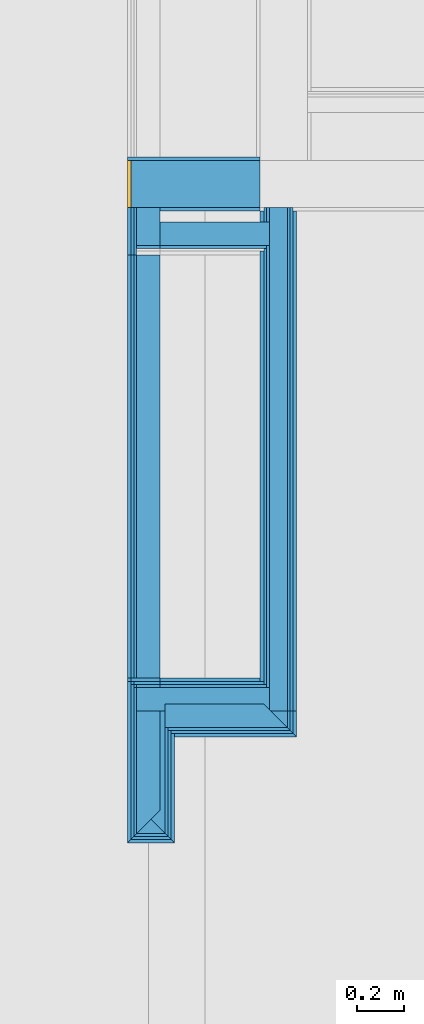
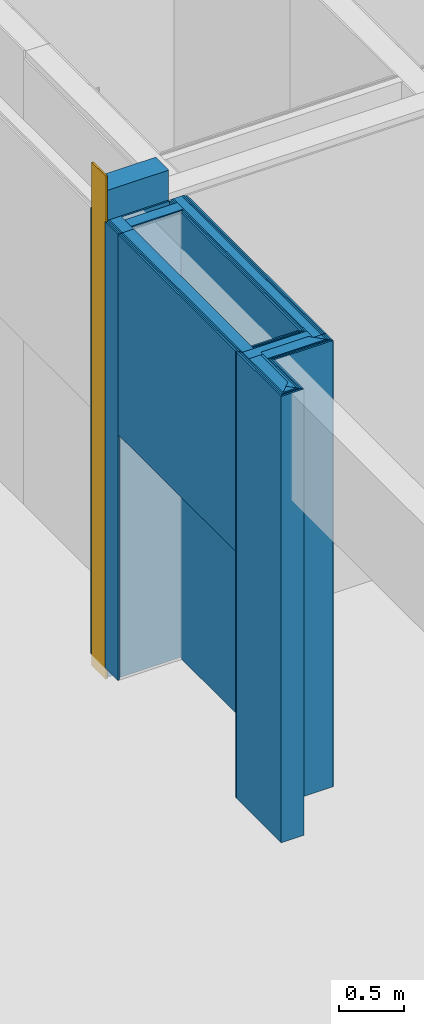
# One storey, part 171 of 260: 44 building element parts, 1 covering, 1 opening, 11 elements without a shape of their own.
"""IFC2X3 building model written with IfcOpenShell, lengths in millimetres."""

from ifc_helpers import new_model, entity, si_unit, converted_unit, derived_unit, money_unit, direction, frame, origin_with_axes, place, context, subcontext, project, spatial, faceted_brep, material, type_object, element, fill, aggregate, save


model = new_model("IFC2X3")

# Units and contexts
model_context = context("Model", 3, precision=0.01, world=origin_with_axes(), true_north=direction((0.0, 1.0)))
body_context = subcontext(model_context, "Body", "Model", "MODEL_VIEW")
ifc_project = project(units=[si_unit("LENGTHUNIT", "METRE", prefix="MILLI"), si_unit("AREAUNIT", "SQUARE_METRE"), si_unit("VOLUMEUNIT", "CUBIC_METRE"), converted_unit("PLANEANGLEUNIT", "DEGREE", entity("IfcPlaneAngleMeasure", 0.0174532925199), si_unit("PLANEANGLEUNIT", "RADIAN"), dimensions=[0, 0, 0, 0, 0, 0, 0]), money_unit("EUR"), converted_unit("TIMEUNIT", "Year", entity("IfcTimeMeasure", 31556926.0), si_unit("TIMEUNIT", "SECOND"), dimensions=[0, 0, 1, 0, 0, 0, 0]), si_unit("MASSUNIT", "GRAM", prefix="KILO"), si_unit("THERMODYNAMICTEMPERATUREUNIT", "DEGREE_CELSIUS"), si_unit("LUMINOUSINTENSITYUNIT", "LUMEN"), si_unit("ENERGYUNIT", "JOULE", prefix="MEGA"), derived_unit("THERMALCONDUCTANCEUNIT", [(si_unit("POWERUNIT", "WATT"), 1), (si_unit("LENGTHUNIT", "METRE"), -1), (si_unit("THERMODYNAMICTEMPERATUREUNIT", "KELVIN"), -1)]), derived_unit("SPECIFICHEATCAPACITYUNIT", [(si_unit("ENERGYUNIT", "JOULE"), 1), (si_unit("MASSUNIT", "GRAM", prefix="KILO"), -1), (si_unit("THERMODYNAMICTEMPERATUREUNIT", "KELVIN"), -1)]), derived_unit("MASSDENSITYUNIT", [(si_unit("MASSUNIT", "GRAM", prefix="KILO"), 1), (si_unit("VOLUMEUNIT", "CUBIC_METRE"), -1)])], contexts=[model_context])

# Site, building, storey
site_placement = place(None, origin_with_axes())
site = spatial("IfcSite", under=ifc_project, at=site_placement, Name="Kolde pst 67a", CompositionType="ELEMENT")
building_placement = place(site_placement, origin_with_axes())
building = spatial("IfcBuilding", under=site, at=building_placement, Name="Riigigümnaasium", CompositionType="ELEMENT")
storey_placement = place(building_placement, origin_with_axes())
storey = spatial("IfcBuildingStorey", under=building, at=storey_placement, Name="1. korrus", CompositionType="ELEMENT", Elevation=0.0)

# Covering
ifc_material_1 = material(Name="_VIIMISTLUSKIHT - viimistlus vastavalt SA osale")
covering_type = type_object("IfcCoveringType", Name="Returned End 25", PredefinedType="NOTDEFINED")
wall_1_placement = place(storey_placement, frame((36604.99923, 45669.9999598, -100.0), z_axis=(0.0, 0.0, 1.0), x_axis=(-1.0, 0.0, 0.0)))
opening_placement = place(wall_1_placement, frame((565.0, 0.0, 0.0), z_axis=(0.0, 0.0, 1.0), x_axis=(1.0, 0.0, 0.0)))
covering_placement = place(opening_placement, frame((-7.5, 0.0, 0.0), z_axis=(0.0, 0.0, 1.0), x_axis=(1.0, 0.0, 0.0)))
covering = element("IfcCovering", 1, at=covering_placement, inside=storey, type_object=covering_type, material=ifc_material_1, Name="Pale", PredefinedType="NOTDEFINED", context=body_context, shape_type="Brep", body=[
    faceted_brep([(7.5, 15.0, 0.0), (-7.5, 15.0, 0.0), (-7.5, 15.0, 4700.0), (7.5, 15.0, 4700.0), (7.5, -200.0, 0.0), (-7.5, -200.0, 0.0), (-7.5, -200.0, 4700.0), (7.5, -200.0, 4700.0)], [[[0, 1, 2, 3]], [[4, 5, 1, 0]], [[5, 6, 2, 1]], [[6, 7, 3, 2]], [[7, 4, 0, 3]], [[4, 7, 6, 5]]]),
])

# Wall, opening
wall_type_1 = type_object("IfcWallType", Name="SS-RB-20/2_+2 plaat 230", PredefinedType="NOTDEFINED")
wall_1 = element("IfcWall", 2, at=wall_1_placement, inside=storey, type_object=wall_type_1, Name="Sisesein")
opening = element("IfcOpeningElement", 3, at=opening_placement, cuts=wall_1, Name="Pale", context=body_context, shape_type="Brep", body=[
    faceted_brep([(-15.0, -200.0, 0.0), (0.0, -200.0, 0.0), (0.0, -200.0, 4700.0), (-15.0, -200.0, 4700.0), (-15.0, 15.0, 0.0), (0.0, 15.0, 0.0), (0.0, 15.0, 4700.0), (-15.0, 15.0, 4700.0)], [[[0, 1, 2, 3]], [[0, 4, 5, 1]], [[1, 5, 6, 2]], [[3, 2, 6, 7]], [[4, 0, 3, 7]], [[5, 4, 7, 6]]]),
])

fill(opening, covering)

# Building element part
building_element_part_1_placement = place(wall_1_placement, origin_with_axes())
building_element_part_1 = element("IfcBuildingElementPart", 4, at=building_element_part_1_placement, material=ifc_material_1, Name="_VIIMISTLUSKIHT - viimistlus vastavalt SA osale", context=body_context, shape_type="Brep", body=[
    faceted_brep([(0.0, 15.0, 100.0), (0.0, 0.0, 100.0), (0.0, 0.0, 4270.0), (0.0, 15.0, 4270.0), (425.0, -4.47037962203e-07, 100.0), (425.0, 15.000002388, 100.0), (425.0, -4.47037962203e-07, 4270.0), (425.0, 15.000002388, 4270.0)], [[[0, 1, 2, 3]], [[4, 1, 0, 5]], [[1, 4, 6, 2]], [[3, 2, 6, 7]], [[5, 0, 3, 7]], [[4, 5, 7, 6]]]),
])

ifc_material_2 = material(Name="_KANDETARIND - monteeritav raudbetoon vastavalt EK osale")
building_element_part_2_placement = place(wall_1_placement, origin_with_axes())
building_element_part_2 = element("IfcBuildingElementPart", 5, at=building_element_part_2_placement, material=ifc_material_2, Name="_KANDETARIND - monteeritav raudbetoon vastavalt EK osale", context=body_context, shape_type="Brep", body=[
    faceted_brep([(550.0, -200.0, 0.0), (550.0, -200.0, 4550.0), (0.0, -200.0, 4550.0), (0.0, -200.0, 0.0), (550.0, -4.35171898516e-07, 4550.0), (550.0, -4.35171898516e-07, 0.0), (0.0, 0.0, 4550.0), (0.0, 0.0, 0.0)], [[[0, 1, 2, 3]], [[4, 1, 0, 5]], [[1, 4, 6, 2]], [[6, 7, 3, 2]], [[5, 0, 3, 7]], [[4, 5, 7, 6]]]),
])

building_element_part_3_placement = place(wall_1_placement, origin_with_axes())
building_element_part_3 = element("IfcBuildingElementPart", 6, at=building_element_part_3_placement, material=ifc_material_1, Name="_VIIMISTLUSKIHT - viimistlus vastavalt SA osale", context=body_context, shape_type="Brep", body=[
    faceted_brep([(0.0, -200.0, 100.0), (0.0, -215.0, 100.0), (0.0, -215.0, 4270.0), (0.0, -200.0, 4270.0), (565.0, -215.0, 100.0), (565.0, -199.999999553, 100.0), (565.0, -215.0, 4270.0), (565.0, -199.999999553, 4270.0)], [[[0, 1, 2, 3]], [[4, 1, 0, 5]], [[1, 4, 6, 2]], [[3, 2, 6, 7]], [[5, 0, 3, 7]], [[4, 5, 7, 6]]]),
])

aggregate(wall_1, [building_element_part_1, building_element_part_2, building_element_part_3])

# Wall, building element parts
wall_type_2 = type_object("IfcWallType", Name="SS-MK-7,5/1_plaaditud 155", PredefinedType="NOTDEFINED")
wall_2_placement = place(storey_placement, frame((36604.99923, 45669.9999598, 0.0), z_axis=(0.0, 0.0, 1.0), x_axis=(0.0, -1.0, 0.0)))
wall_2 = element("IfcWall", 7, at=wall_2_placement, inside=storey, type_object=wall_type_2, Name="Sisesein")
building_element_part_4_placement = place(wall_2_placement, origin_with_axes())
building_element_part_4 = element("IfcBuildingElementPart", 8, at=building_element_part_4_placement, material=ifc_material_1, Name="_VIIMISTLUSKIHT - viimistlus vastavalt SA osale", context=body_context, shape_type="Brep", body=[
    faceted_brep([(15.0000008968, 140.0, 4170.0), (15.0000008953, 155.0, 4170.0), (15.0000008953, 155.0, 0.0), (15.0000008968, 140.0, 0.0), (2139.99997455, 155.0, 4170.0), (2139.99997455, 140.0, 4170.0), (2139.99997455, 155.0, 0.0), (2139.99997455, 140.0, 0.0)], [[[0, 1, 2, 3]], [[4, 1, 0, 5]], [[1, 4, 6, 2]], [[7, 3, 2, 6]], [[5, 0, 3, 7]], [[4, 5, 7, 6]]]),
])
ifc_material_3 = material(Name="_PLAATMATERJAL - kipsplaat veekindel")
building_element_part_5_placement = place(wall_2_placement, origin_with_axes())
building_element_part_5 = element("IfcBuildingElementPart", 9, at=building_element_part_5_placement, material=ifc_material_3, Name="_PLAATMATERJAL - kipsplaat veekindel", context=body_context, shape_type="Brep", body=[
    faceted_brep([(0.0, 127.5, 4170.0), (0.0, 140.0, 4170.0), (0.0, 140.0, 0.0), (0.0, 127.5, 0.0), (2139.99997455, 140.0, 4170.0), (2139.99997455, 127.5, 4170.0), (2139.99997455, 140.0, 0.0), (2139.99997455, 127.5, 0.0)], [[[0, 1, 2, 3]], [[4, 1, 0, 5]], [[1, 4, 6, 2]], [[7, 3, 2, 6]], [[5, 0, 3, 7]], [[4, 5, 7, 6]]]),
])
building_element_part_6_placement = place(wall_2_placement, origin_with_axes())
building_element_part_6 = element("IfcBuildingElementPart", 10, at=building_element_part_6_placement, material=ifc_material_3, Name="_PLAATMATERJAL - kipsplaat veekindel", context=body_context, shape_type="Brep", body=[
    faceted_brep([(0.0, 115.0, 4170.0), (0.0, 127.5, 4170.0), (0.0, 127.5, 0.0), (0.0, 115.0, 0.0), (2139.99997455, 127.5, 4170.0), (2139.99997455, 115.0, 4170.0), (2139.99997455, 127.5, 0.0), (2139.99997455, 115.0, 0.0)], [[[0, 1, 2, 3]], [[4, 1, 0, 5]], [[1, 4, 6, 2]], [[7, 3, 2, 6]], [[5, 0, 3, 7]], [[4, 5, 7, 6]]]),
])
ifc_material_4 = material(Name="_KARKASS - metallkarkass CW 75/50, mineraalvill karkassi vahel")
building_element_part_7_placement = place(wall_2_placement, origin_with_axes())
building_element_part_7 = element("IfcBuildingElementPart", 11, at=building_element_part_7_placement, material=ifc_material_4, Name="_KARKASS - metallkarkass CW 75/50, mineraalvill karkassi vahel", context=body_context, shape_type="Brep", body=[
    faceted_brep([(0.0, 40.0, 4170.0), (0.0, 115.0, 4170.0), (0.0, 115.0, 0.0), (0.0, 40.0, 0.0), (2139.99997455, 115.0, 4170.0), (2139.99997455, 40.0, 4170.0), (2139.99997455, 115.0, 0.0), (2139.99997455, 40.0, 0.0)], [[[0, 1, 2, 3]], [[4, 1, 0, 5]], [[1, 4, 6, 2]], [[7, 3, 2, 6]], [[5, 0, 3, 7]], [[4, 5, 7, 6]]]),
])
building_element_part_8_placement = place(wall_2_placement, origin_with_axes())
building_element_part_8 = element("IfcBuildingElementPart", 12, at=building_element_part_8_placement, material=ifc_material_3, Name="_PLAATMATERJAL - kipsplaat veekindel", context=body_context, shape_type="Brep", body=[
    faceted_brep([(160.0, 27.5, 4170.0), (160.0, 40.0, 4170.0), (160.0, 40.0, 0.0), (160.0, 27.5, 0.0), (2040.0, 40.0, 4170.0), (2040.0, 27.5, 4170.0), (2040.0, 40.0, 0.0), (2040.0, 27.5, 0.0)], [[[0, 1, 2, 3]], [[4, 1, 0, 5]], [[1, 4, 6, 2]], [[7, 3, 2, 6]], [[5, 0, 3, 7]], [[4, 5, 7, 6]]]),
    faceted_brep([(0.0, 27.5, 4170.0), (0.0, 40.0, 4170.0), (0.0, 40.0, 0.0), (0.0, 27.5, 0.0), (60.0, 40.0, 4170.0), (60.0, 27.5, 4170.0), (60.0, 40.0, 0.0), (60.0, 27.5, 0.0)], [[[0, 1, 2, 3]], [[4, 1, 0, 5]], [[1, 4, 6, 2]], [[2, 6, 7, 3]], [[5, 0, 3, 7]], [[4, 5, 7, 6]]]),
])
building_element_part_9_placement = place(wall_2_placement, origin_with_axes())
building_element_part_9 = element("IfcBuildingElementPart", 13, at=building_element_part_9_placement, material=ifc_material_3, Name="_PLAATMATERJAL - kipsplaat veekindel", context=body_context, shape_type="Brep", body=[
    faceted_brep([(172.5, 15.0, 4170.0), (172.5, 27.5, 4170.0), (172.5, 27.5, 0.0), (172.5, 15.0, 0.0), (2027.5, 27.5, 4170.0), (2027.5, 15.0, 4170.0), (2027.5, 27.5, 0.0), (2027.5, 15.0, 0.0)], [[[0, 1, 2, 3]], [[4, 1, 0, 5]], [[1, 4, 6, 2]], [[7, 3, 2, 6]], [[5, 0, 3, 7]], [[4, 5, 7, 6]]]),
    faceted_brep([(0.0, 15.0, 4170.0), (0.0, 27.5, 4170.0), (0.0, 27.5, 0.0), (0.0, 15.0, 0.0), (60.0, 27.5, 4170.0), (60.0, 15.0, 4170.0), (60.0, 27.5, 0.0), (60.0, 15.0, 0.0)], [[[0, 1, 2, 3]], [[4, 1, 0, 5]], [[1, 4, 6, 2]], [[2, 6, 7, 3]], [[5, 0, 3, 7]], [[4, 5, 7, 6]]]),
])
building_element_part_10_placement = place(wall_2_placement, origin_with_axes())
building_element_part_10 = element("IfcBuildingElementPart", 14, at=building_element_part_10_placement, material=ifc_material_1, Name="_VIIMISTLUSKIHT - viimistlus vastavalt SA osale", context=body_context, shape_type="Brep", body=[
    faceted_brep([(185.0, 1.72093450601e-08, 4170.0), (185.0, 15.0, 4170.0), (185.0, 15.0, 0.0), (185.0, 3.28321192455e-06, 0.0), (2015.0, 15.0, 4170.0), (2015.0, 1.10134124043e-09, 4170.0), (2015.0, 15.0, 0.0), (2015.0, 2.09922745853e-07, 0.0)], [[[0, 1, 2, 3]], [[4, 1, 0, 5]], [[1, 4, 6, 2]], [[7, 3, 2, 6]], [[5, 0, 3, 7]], [[4, 5, 7, 6]]]),
    faceted_brep([(15.0000009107, 3.56870799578e-06, 4170.0), (15.0000009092, 15.0, 4170.0), (15.0000009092, 15.0, 0.0), (15.0000009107, 3.56870799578e-06, 0.0), (60.0, 15.0, 4170.0), (60.0, 1.83106863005e-08, 4170.0), (60.0, 15.0, 0.0), (60.0, 3.49313467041e-06, 0.0)], [[[0, 1, 2, 3]], [[4, 1, 0, 5]], [[1, 4, 6, 2]], [[2, 6, 7, 3]], [[5, 0, 3, 7]], [[4, 5, 7, 6]]]),
])
aggregate(wall_2, [building_element_part_4, building_element_part_5, building_element_part_6, building_element_part_7, building_element_part_8, building_element_part_9, building_element_part_10])

wall_type_3 = type_object("IfcWallType", Name="SS-MK-10/2_šahti sein+plaat 140", PredefinedType="NOTDEFINED")
wall_3_placement = place(storey_placement, frame((36604.99923, 43669.9999598, 0.0), z_axis=(0.0, 0.0, 1.0), x_axis=(-1.0, 0.0, 0.0)))
wall_3 = element("IfcWall", 15, at=wall_3_placement, inside=storey, type_object=wall_type_3, Name="Sisesein")
ifc_material_5 = material(Name="_KARKASS - metallkarkass CW 100/50/06 ja UW 100/40/06, samm 600, vahel mineraalvill, helineeldetegur αw = 1.0,  ISOVER ACOUSTIC 100mm või samaväärne")
building_element_part_11_placement = place(wall_3_placement, origin_with_axes())
building_element_part_11 = element("IfcBuildingElementPart", 16, at=building_element_part_11_placement, material=ifc_material_5, Name="_KARKASS - metallkarkass CW 100/50/06 ja UW 100/40/06, samm 600, vahel mineraalvill, helineeldetegur αw = 1.0,  ISOVER ACOUSTIC 100mm või samaväärne", context=body_context, shape_type="Brep", body=[
    faceted_brep([(524.999998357, 40.0, 4170.0), (-40.0, 40.0, 4170.0), (-40.0, 40.0, 0.0), (524.999998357, 40.0, 0.0), (-40.0, 140.0, 4170.0), (524.999994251, 140.0, 4170.0), (-40.0, 140.0, 0.0), (524.999994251, 140.0, 0.0)], [[[0, 1, 2, 3]], [[4, 1, 0, 5]], [[1, 4, 6, 2]], [[6, 7, 3, 2]], [[5, 0, 3, 7]], [[4, 5, 7, 6]]]),
])
building_element_part_12_placement = place(wall_3_placement, origin_with_axes())
building_element_part_12 = element("IfcBuildingElementPart", 17, at=building_element_part_12_placement, material=ifc_material_3, Name="_PLAATMATERJAL - kipsplaat veekindel", context=body_context, shape_type="Brep", body=[
    faceted_brep([(425.0, 27.5, 4170.0), (-27.5, 27.5, 4170.0), (-27.5, 27.5, 0.0), (537.5, 27.5, 0.0), (537.5, 27.5, 4170.0), (524.999998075, 27.5, 4170.0), (524.999973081, 27.5, 2300.0), (425.0, 27.5, 2300.0), (-27.5, 40.0, 4170.0), (425.0, 40.0, 4170.0), (-27.5, 40.0, 0.0), (537.5, 40.0, 0.0), (537.5, 40.0, 4170.0), (524.999998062, 40.0, 4170.0), (524.999972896, 40.0, 2300.0), (425.0, 40.0, 2300.0)], [[[0, 1, 2, 3, 4, 5, 6, 7]], [[8, 1, 0, 9]], [[1, 8, 10, 2]], [[10, 11, 3, 2]], [[12, 4, 3, 11]], [[13, 5, 4, 12]], [[5, 13, 14, 6]], [[15, 7, 6, 14]], [[9, 0, 7, 15]], [[8, 9, 15, 14, 13, 12, 11, 10]]]),
])
building_element_part_13_placement = place(wall_3_placement, origin_with_axes())
building_element_part_13 = element("IfcBuildingElementPart", 18, at=building_element_part_13_placement, material=ifc_material_3, Name="_PLAATMATERJAL - kipsplaat veekindel", context=body_context, shape_type="Brep", body=[
    faceted_brep([(425.0, 15.0, 4170.0), (-15.0, 15.0, 4170.0), (-15.0, 15.0, 0.0), (549.9999996, 15.0, 0.0), (549.9999996, 15.0, 4170.0), (537.5, 15.0, 4170.0), (537.5, 15.0, 2300.0), (425.0, 15.0, 2300.0), (-15.0, 27.5, 4170.0), (425.0, 27.5, 4170.0), (-15.0, 27.5, 0.0), (549.999999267, 27.5, 0.0), (549.999999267, 27.5, 4170.0), (537.5, 27.5, 4170.0), (537.5, 27.5, 2300.0), (425.0, 27.5, 2300.0), (525.0, 27.5, 2300.0)], [[[0, 1, 2, 3, 4, 5, 6, 7]], [[8, 1, 0, 9]], [[1, 8, 10, 2]], [[10, 11, 3, 2]], [[12, 4, 3, 11]], [[13, 5, 4, 12]], [[5, 13, 14, 6]], [[15, 7, 6, 14, 16]], [[9, 0, 7, 15]], [[8, 9, 15, 16, 14, 13, 12, 11, 10]]]),
])
building_element_part_14_placement = place(wall_3_placement, origin_with_axes())
building_element_part_14 = element("IfcBuildingElementPart", 19, at=building_element_part_14_placement, material=ifc_material_1, Name="_VIIMISTLUSKIHT - viimistlus vastavalt SA osale", context=body_context, shape_type="Brep", body=[
    faceted_brep([(425.0, 0.0, 4170.0), (0.0, 0.0, 4170.0), (0.0, 0.0, 0.0), (564.999983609, 0.0, 0.0), (564.999993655, 0.0, 4170.0), (549.999999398, 0.0, 4170.0), (549.999981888, 0.0, 2300.0), (425.0, 0.0, 2300.0), (0.0, 15.0, 4170.0), (425.0, 15.0, 4170.0), (0.0, 15.0, 0.0), (564.999983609, 15.0, 0.0), (564.999993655, 15.0, 4170.0), (549.999999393, 15.0, 4170.0), (549.999981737, 15.0, 2300.0), (425.0, 15.0, 2300.0), (537.5, 15.0, 2300.0)], [[[0, 1, 2, 3, 4, 5, 6, 7]], [[8, 1, 0, 9]], [[1, 8, 10, 2]], [[2, 10, 11, 3]], [[12, 4, 3, 11]], [[13, 5, 4, 12]], [[5, 13, 14, 6]], [[15, 7, 6, 14, 16]], [[9, 0, 7, 15]], [[8, 9, 15, 16, 14, 13, 12, 11, 10]]]),
])
aggregate(wall_3, [building_element_part_11, building_element_part_12, building_element_part_13, building_element_part_14])

wall_4_placement = place(storey_placement, frame((36039.99923, 42969.9999598, 0.0), z_axis=(0.0, 0.0, 1.0), x_axis=(0.0, 1.0, 0.0)))
wall_4 = element("IfcWall", 20, at=wall_4_placement, inside=storey, type_object=wall_type_3, Name="Sisesein")
building_element_part_15_placement = place(wall_4_placement, origin_with_axes())
building_element_part_15 = element("IfcBuildingElementPart", 21, at=building_element_part_15_placement, material=ifc_material_1, Name="_VIIMISTLUSKIHT - viimistlus vastavalt SA osale", context=body_context, shape_type="Brep", body=[
    faceted_brep([(685.0, -6.34450003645e-06, 4170.0), (685.0, -15.0000003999, 4170.0), (685.0, -15.0000003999, 0.0), (685.0, -1.6391290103e-05, 0.0), (15.0000182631, -15.0000182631, 4170.0), (0.0, -2.54518539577e-05, 4170.0), (15.0000182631, -15.0000182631, 0.0), (0.0, -2.54518539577e-05, 0.0)], [[[0, 1, 2, 3]], [[4, 1, 0, 5]], [[1, 4, 6, 2]], [[7, 3, 2, 6]], [[5, 0, 3, 7]], [[4, 5, 7, 6]]]),
])
building_element_part_16_placement = place(wall_4_placement, origin_with_axes())
building_element_part_16 = element("IfcBuildingElementPart", 22, at=building_element_part_16_placement, material=ifc_material_3, Name="_PLAATMATERJAL - kipsplaat veekindel", context=body_context, shape_type="Brep", body=[
    faceted_brep([(672.5, -15.0000007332, 4170.0), (672.5, -27.5, 4170.0), (672.5, -27.5, 0.0), (672.5, -15.0000007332, 0.0), (27.5, -27.5, 4170.0), (15.0000182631, -15.0000182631, 4170.0), (27.5, -27.5, 0.0), (15.0000182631, -15.0000182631, 0.0)], [[[0, 1, 2, 3]], [[4, 1, 0, 5]], [[1, 4, 6, 2]], [[7, 3, 2, 6]], [[5, 0, 3, 7]], [[4, 5, 7, 6]]]),
])
building_element_part_17_placement = place(wall_4_placement, origin_with_axes())
building_element_part_17 = element("IfcBuildingElementPart", 23, at=building_element_part_17_placement, material=ifc_material_3, Name="_PLAATMATERJAL - kipsplaat veekindel", context=body_context, shape_type="Brep", body=[
    faceted_brep([(660.0, -27.5, 4170.0), (660.0, -40.0000016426, 4170.0), (660.0, -40.0000016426, 0.0), (660.0, -27.5, 0.0), (40.0000271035, -40.0000271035, 4170.0), (27.5, -27.5, 4170.0), (40.0000271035, -40.0000271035, 0.0), (27.5, -27.5, 0.0)], [[[0, 1, 2, 3]], [[4, 1, 0, 5]], [[1, 4, 6, 2]], [[7, 3, 2, 6]], [[5, 0, 3, 7]], [[4, 5, 7, 6]]]),
])
building_element_part_18_placement = place(wall_4_placement, origin_with_axes())
building_element_part_18 = element("IfcBuildingElementPart", 24, at=building_element_part_18_placement, material=ifc_material_5, Name="_KARKASS - metallkarkass CW 100/50/06 ja UW 100/40/06, samm 600, vahel mineraalvill, helineeldetegur αw = 1.0,  ISOVER ACOUSTIC 100mm või samaväärne", context=body_context, shape_type="Brep", body=[
    faceted_brep([(560.0, -40.0000057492, 4170.0), (560.0, -140.0, 4170.0), (560.0, -140.0, 0.0), (560.0, -40.0000057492, 0.0), (140.0, -140.0, 4170.0), (40.0000271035, -40.0000271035, 4170.0), (140.0, -140.0, 0.0), (40.0000271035, -40.0000271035, 0.0)], [[[0, 1, 2, 3]], [[4, 1, 0, 5]], [[1, 4, 6, 2]], [[7, 3, 2, 6]], [[5, 0, 3, 7]], [[4, 5, 7, 6]]]),
])
aggregate(wall_4, [building_element_part_15, building_element_part_16, building_element_part_17, building_element_part_18])

wall_5_placement = place(storey_placement, frame((36039.99923, 45469.9999598, 2300.0), z_axis=(0.0, 0.0, 1.0), x_axis=(0.0, -1.0, 0.0)))
wall_5 = element("IfcWall", 25, at=wall_5_placement, inside=storey, type_object=wall_type_3, Name="Sisesein")
building_element_part_19_placement = place(wall_5_placement, origin_with_axes())
building_element_part_19 = element("IfcBuildingElementPart", 26, at=building_element_part_19_placement, material=ifc_material_5, Name="_KARKASS - metallkarkass CW 100/50/06 ja UW 100/40/06, samm 600, vahel mineraalvill, helineeldetegur αw = 1.0,  ISOVER ACOUSTIC 100mm või samaväärne", context=body_context, shape_type="Brep", body=[
    faceted_brep([(0.0, 40.0, 1870.0), (0.0, 140.0, 1870.0), (0.0, 140.0, 0.0), (0.0, 40.0, 0.0), (1840.0, 140.0, 1870.0), (1840.0, 40.0000019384, 1870.0), (1840.0, 140.0, 0.0), (1840.0, 40.0000271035, 0.0)], [[[0, 1, 2, 3]], [[4, 1, 0, 5]], [[1, 4, 6, 2]], [[2, 6, 7, 3]], [[5, 0, 3, 7]], [[4, 5, 7, 6]]]),
])
building_element_part_20_placement = place(wall_5_placement, origin_with_axes())
building_element_part_20 = element("IfcBuildingElementPart", 27, at=building_element_part_20_placement, material=ifc_material_3, Name="_PLAATMATERJAL - kipsplaat veekindel", context=body_context, shape_type="Brep", body=[
    faceted_brep([(0.0, 27.5, 1870.0), (0.0, 40.0, 1870.0), (0.0, 40.0, 0.0), (0.0, 27.5, 0.0), (1827.5, 40.0, 1870.0), (1827.5, 27.5, 1870.0), (1827.5, 40.0, 0.0), (1827.5, 27.5, 0.0)], [[[0, 1, 2, 3]], [[4, 1, 0, 5]], [[1, 4, 6, 2]], [[2, 6, 7, 3]], [[5, 0, 3, 7]], [[4, 5, 7, 6]]]),
])
building_element_part_21_placement = place(wall_5_placement, origin_with_axes())
building_element_part_21 = element("IfcBuildingElementPart", 28, at=building_element_part_21_placement, material=ifc_material_3, Name="_PLAATMATERJAL - kipsplaat veekindel", context=body_context, shape_type="Brep", body=[
    faceted_brep([(0.0, 15.0, 1870.0), (0.0, 27.5, 1870.0), (0.0, 27.5, 0.0), (0.0, 15.0, 0.0), (1815.0, 27.5, 1870.0), (1815.0, 15.0000006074, 1870.0), (1815.0, 27.5, 0.0), (1815.0, 15.0000182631, 0.0)], [[[0, 1, 2, 3]], [[4, 1, 0, 5]], [[1, 4, 6, 2]], [[2, 6, 7, 3]], [[5, 0, 3, 7]], [[4, 5, 7, 6]]]),
])
building_element_part_22_placement = place(wall_5_placement, origin_with_axes())
building_element_part_22 = element("IfcBuildingElementPart", 29, at=building_element_part_22_placement, material=ifc_material_1, Name="_VIIMISTLUSKIHT - viimistlus vastavalt SA osale", context=body_context, shape_type="Brep", body=[
    faceted_brep([(0.0, 0.0, 1870.0), (0.0, 15.0, 1870.0), (0.0, 15.0, 0.0), (0.0, 0.0, 0.0), (1800.0, 15.0, 1870.0), (1800.0, 6.34450003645e-06, 1870.0), (1800.0, 15.0, 0.0), (1800.0, 1.08498952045e-05, 0.0)], [[[0, 1, 2, 3]], [[4, 1, 0, 5]], [[1, 4, 6, 2]], [[2, 6, 7, 3]], [[5, 0, 3, 7]], [[4, 5, 7, 6]]]),
])
aggregate(wall_5, [building_element_part_19, building_element_part_20, building_element_part_21, building_element_part_22])

wall_6_placement = place(storey_placement, frame((36039.99923, 45469.9999598, 0.0), z_axis=(0.0, 0.0, 1.0), x_axis=(0.0, 1.0, 0.0)))
wall_6 = element("IfcWall", 30, at=wall_6_placement, inside=storey, type_object=wall_type_3, Name="Sisesein")
building_element_part_23_placement = place(wall_6_placement, origin_with_axes())
building_element_part_23 = element("IfcBuildingElementPart", 31, at=building_element_part_23_placement, material=ifc_material_1, Name="_VIIMISTLUSKIHT - viimistlus vastavalt SA osale", context=body_context, shape_type="Brep", body=[
    faceted_brep([(200.0, -3.12928705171e-06, 4170.0), (200.0, -14.999995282, 4170.0), (200.0, -15.0, 0.0), (200.0, 0.0, 0.0), (0.0, -14.999990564, 4170.0), (0.0, -6.29155749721e-06, 4170.0), (0.0, -15.0, 0.0), (0.0, 0.0, 0.0), (0.0, -6.29155749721e-06, 2300.0)], [[[0, 1, 2, 3]], [[4, 1, 0, 5]], [[1, 4, 6, 2]], [[2, 6, 7, 3]], [[5, 0, 3, 7, 8]], [[4, 5, 8, 7, 6]]]),
])
building_element_part_24_placement = place(wall_6_placement, origin_with_axes())
building_element_part_24 = element("IfcBuildingElementPart", 32, at=building_element_part_24_placement, material=ifc_material_3, Name="_PLAATMATERJAL - kipsplaat veekindel", context=body_context, shape_type="Brep", body=[
    faceted_brep([(200.0, -14.999995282, 4170.0), (200.0, -27.5, 4170.0), (200.0, -27.5, 0.0), (200.0, -15.0, 0.0), (0.0, -27.5, 4170.0), (0.0, -14.999990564, 4170.0), (0.0, -27.5, 2300.0), (15.0, -27.5, 2300.0), (15.0, -27.5, 0.0), (15.0, -15.0, 0.0), (15.0, -15.0, 2300.0), (0.0, -14.9999947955, 2300.0)], [[[0, 1, 2, 3]], [[4, 1, 0, 5]], [[1, 4, 6, 7, 8, 2]], [[2, 8, 9, 3]], [[5, 0, 3, 9, 10, 11]], [[4, 5, 11, 6]], [[10, 7, 6, 11]], [[9, 8, 7, 10]]]),
])
building_element_part_25_placement = place(wall_6_placement, origin_with_axes())
building_element_part_25 = element("IfcBuildingElementPart", 33, at=building_element_part_25_placement, material=ifc_material_3, Name="_PLAATMATERJAL - kipsplaat veekindel", context=body_context, shape_type="Brep", body=[
    faceted_brep([(200.0, -27.5, 4170.0), (200.0, -39.9999962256, 4170.0), (200.0, -40.0, 0.0), (200.0, -27.5, 0.0), (0.0, -39.9999924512, 4170.0), (0.0, -27.5, 4170.0), (0.0, -39.9999958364, 2300.0), (27.5, -40.0, 2300.0), (27.5, -40.0, 0.0), (27.5, -27.5, 0.0), (27.5, -27.5, 2300.0), (0.0, -27.5, 2300.0)], [[[0, 1, 2, 3]], [[4, 1, 0, 5]], [[1, 4, 6, 7, 8, 2]], [[2, 8, 9, 3]], [[5, 0, 3, 9, 10, 11]], [[4, 5, 11, 6]], [[11, 10, 7, 6]], [[9, 8, 7, 10]]]),
])
building_element_part_26_placement = place(wall_6_placement, origin_with_axes())
building_element_part_26 = element("IfcBuildingElementPart", 34, at=building_element_part_26_placement, material=ifc_material_5, Name="_KARKASS - metallkarkass CW 100/50/06 ja UW 100/40/06, samm 600, vahel mineraalvill, helineeldetegur αw = 1.0,  ISOVER ACOUSTIC 100mm või samaväärne", context=body_context, shape_type="Brep", body=[
    faceted_brep([(200.0, -39.9999962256, 4170.0), (200.0, -140.0, 4170.0), (200.0, -140.0, 0.0), (200.0, -40.0, 0.0), (0.0, -140.0, 4170.0), (0.0, -39.9999924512, 4170.0), (0.0, -140.0, 2300.0), (40.0, -140.0, 2300.0), (40.0, -140.0, 0.0), (40.0, -40.0, 0.0), (40.0, -40.0, 2300.0), (0.0, -39.9999958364, 2300.0)], [[[0, 1, 2, 3]], [[4, 1, 0, 5]], [[1, 4, 6, 7, 8, 2]], [[2, 8, 9, 3]], [[5, 0, 3, 9, 10, 11]], [[4, 5, 11, 6]], [[11, 10, 7, 6]], [[9, 8, 7, 10]]]),
])
aggregate(wall_6, [building_element_part_23, building_element_part_24, building_element_part_25, building_element_part_26])

wall_7_placement = place(storey_placement, frame((36039.99923, 45469.9999598, 0.0), z_axis=(0.0, 0.0, 1.0), x_axis=(1.0, 0.0, 0.0)))
wall_7 = element("IfcWall", 35, at=wall_7_placement, inside=storey, type_object=wall_type_3, Name="Sisesein")
building_element_part_27_placement = place(wall_7_placement, origin_with_axes())
building_element_part_27 = element("IfcBuildingElementPart", 36, at=building_element_part_27_placement, material=ifc_material_5, Name="_KARKASS - metallkarkass CW 100/50/06 ja UW 100/40/06, samm 600, vahel mineraalvill, helineeldetegur αw = 1.0,  ISOVER ACOUSTIC 100mm või samaväärne", context=body_context, shape_type="Brep", body=[
    faceted_brep([(140.0, 140.0, 4170.0), (605.0, 140.0, 4170.0), (605.0, 140.0, 0.0), (140.0, 140.0, 0.0), (605.0, 40.0, 4170.0), (140.0, 40.0, 4170.0), (605.0, 40.0, 0.0), (140.0, 40.0, 0.0)], [[[0, 1, 2, 3]], [[4, 1, 0, 5]], [[1, 4, 6, 2]], [[6, 7, 3, 2]], [[5, 0, 3, 7]], [[4, 5, 7, 6]]]),
])
building_element_part_28_placement = place(wall_7_placement, origin_with_axes())
building_element_part_28 = element("IfcBuildingElementPart", 37, at=building_element_part_28_placement, material=ifc_material_3, Name="_PLAATMATERJAL - kipsplaat veekindel", context=body_context, shape_type="Brep", body=[
    faceted_brep([(140.0, 40.0, 4170.0), (592.5, 40.0, 4170.0), (592.5, 40.0, 0.0), (40.0, 40.0, 0.0), (39.9999962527, 40.0, 2300.0), (140.0, 40.0, 2300.0), (592.5, 27.5, 4170.0), (140.0, 27.5, 4170.0), (592.5, 27.5, 0.0), (40.0, 27.5, 0.0), (39.9999961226, 27.5, 2300.0), (140.0, 27.5, 2300.0)], [[[0, 1, 2, 3, 4, 5]], [[6, 1, 0, 7]], [[1, 6, 8, 2]], [[8, 9, 3, 2]], [[9, 10, 4, 3]], [[5, 4, 10, 11]], [[7, 0, 5, 11]], [[6, 7, 11, 10, 9, 8]]]),
])
aggregate(wall_7, [building_element_part_27, building_element_part_28])

wall_8_placement = place(storey_placement, frame((36039.99923, 42969.9999598, 0.0), z_axis=(0.0, 0.0, 1.0), x_axis=(1.0, 0.0, 0.0)))
wall_8 = element("IfcWall", 38, at=wall_8_placement, inside=storey, type_object=wall_type_3, Name="Sisesein")
building_element_part_29_placement = place(wall_8_placement, origin_with_axes())
building_element_part_29 = element("IfcBuildingElementPart", 39, at=building_element_part_29_placement, material=ifc_material_5, Name="_KARKASS - metallkarkass CW 100/50/06 ja UW 100/40/06, samm 600, vahel mineraalvill, helineeldetegur αw = 1.0,  ISOVER ACOUSTIC 100mm või samaväärne", context=body_context, shape_type="Brep", body=[
    faceted_brep([(100.0, 100.0, 4170.0), (159.999998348, 40.0000016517, 4170.0), (159.999998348, 40.0000016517, 0.0), (100.0, 100.0, 0.0), (40.0000016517, 40.0000016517, 4170.0), (40.0000016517, 40.0000016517, 0.0)], [[[0, 1, 2, 3]], [[4, 1, 0]], [[1, 4, 5, 2]], [[5, 3, 2]], [[4, 0, 3, 5]]]),
])
building_element_part_30_placement = place(wall_8_placement, origin_with_axes())
building_element_part_30 = element("IfcBuildingElementPart", 40, at=building_element_part_30_placement, material=ifc_material_3, Name="_PLAATMATERJAL - kipsplaat veekindel", context=body_context, shape_type="Brep", body=[
    faceted_brep([(159.999998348, 40.0000016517, 4170.0), (172.499994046, 27.5000059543, 4170.0), (172.499994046, 27.5000059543, 0.0), (159.999998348, 40.0000016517, 0.0), (27.5000127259, 27.5000127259, 4170.0), (40.0000016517, 40.0000016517, 4170.0), (27.5000127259, 27.5000127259, 0.0), (40.0000016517, 40.0000016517, 0.0)], [[[0, 1, 2, 3]], [[4, 1, 0, 5]], [[1, 4, 6, 2]], [[7, 3, 2, 6]], [[5, 0, 3, 7]], [[4, 5, 7, 6]]]),
])
building_element_part_31_placement = place(wall_8_placement, origin_with_axes())
building_element_part_31 = element("IfcBuildingElementPart", 41, at=building_element_part_31_placement, material=ifc_material_3, Name="_PLAATMATERJAL - kipsplaat veekindel", context=body_context, shape_type="Brep", body=[
    faceted_brep([(172.499994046, 27.5000059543, 4170.0), (185.000007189, 14.9999928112, 4170.0), (185.000007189, 14.9999928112, 0.0), (172.499994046, 27.5000059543, 0.0), (14.9999928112, 14.9999928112, 4170.0), (27.5000127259, 27.5000127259, 4170.0), (14.9999928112, 14.9999928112, 0.0), (27.5000127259, 27.5000127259, 0.0)], [[[0, 1, 2, 3]], [[4, 1, 0, 5]], [[1, 4, 6, 2]], [[7, 3, 2, 6]], [[5, 0, 3, 7]], [[4, 5, 7, 6]]]),
])
building_element_part_32_placement = place(wall_8_placement, origin_with_axes())
building_element_part_32 = element("IfcBuildingElementPart", 42, at=building_element_part_32_placement, material=ifc_material_1, Name="_VIIMISTLUSKIHT - viimistlus vastavalt SA osale", context=body_context, shape_type="Brep", body=[
    faceted_brep([(185.000007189, 14.9999928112, 4170.0), (200.0, 0.0, 4170.0), (200.0, 0.0, 0.0), (185.000007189, 14.9999928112, 0.0), (2.54518539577e-05, 0.0, 4170.0), (14.9999928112, 14.9999928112, 4170.0), (2.54518539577e-05, 0.0, 0.0), (14.9999928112, 14.9999928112, 0.0)], [[[0, 1, 2, 3]], [[4, 1, 0, 5]], [[1, 4, 6, 2]], [[7, 3, 2, 6]], [[5, 0, 3, 7]], [[4, 5, 7, 6]]]),
])
aggregate(wall_8, [building_element_part_29, building_element_part_30, building_element_part_31, building_element_part_32])

wall_9_placement = place(storey_placement, frame((36239.99923, 42969.9999598, 0.0), z_axis=(0.0, 0.0, 1.0), x_axis=(0.0, 1.0, 0.0)))
wall_9 = element("IfcWall", 43, at=wall_9_placement, inside=storey, type_object=wall_type_3, Name="Sisesein")
building_element_part_33_placement = place(wall_9_placement, origin_with_axes())
building_element_part_33 = element("IfcBuildingElementPart", 44, at=building_element_part_33_placement, material=ifc_material_5, Name="_KARKASS - metallkarkass CW 100/50/06 ja UW 100/40/06, samm 600, vahel mineraalvill, helineeldetegur αw = 1.0,  ISOVER ACOUSTIC 100mm või samaväärne", context=body_context, shape_type="Brep", body=[
    faceted_brep([(560.0, 139.999990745, 4170.0), (560.0, 40.0000005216, 4170.0), (560.0, 40.0000005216, 0.0), (560.0, 139.999990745, 0.0), (40.0000016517, 40.0000016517, 4170.0), (139.999974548, 139.999974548, 4170.0), (40.0000016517, 40.0000016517, 0.0), (139.999974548, 139.999974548, 0.0)], [[[0, 1, 2, 3]], [[4, 1, 0, 5]], [[1, 4, 6, 2]], [[2, 6, 7, 3]], [[5, 0, 3, 7]], [[4, 5, 7, 6]]]),
])
building_element_part_34_placement = place(wall_9_placement, origin_with_axes())
building_element_part_34 = element("IfcBuildingElementPart", 45, at=building_element_part_34_placement, material=ifc_material_3, Name="_PLAATMATERJAL - kipsplaat veekindel", context=body_context, shape_type="Brep", body=[
    faceted_brep([(490.0, 40.0000006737, 4170.0), (490.0, 27.5, 4170.0), (490.0, 27.5, 0.0), (490.0, 40.0000006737, 0.0), (27.5, 27.5, 4170.0), (40.0000016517, 40.0000016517, 4170.0), (27.5, 27.5, 0.0), (40.0000016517, 40.0000016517, 0.0)], [[[0, 1, 2, 3]], [[4, 1, 0, 5]], [[1, 4, 6, 2]], [[2, 6, 7, 3]], [[5, 0, 3, 7]], [[4, 5, 7, 6]]]),
])
building_element_part_35_placement = place(wall_9_placement, origin_with_axes())
building_element_part_35 = element("IfcBuildingElementPart", 46, at=building_element_part_35_placement, material=ifc_material_3, Name="_PLAATMATERJAL - kipsplaat veekindel", context=body_context, shape_type="Brep", body=[
    faceted_brep([(477.5, 27.5, 4170.0), (477.5, 14.9999970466, 4170.0), (477.5, 14.9999970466, 0.0), (477.5, 27.5, 0.0), (14.9999928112, 14.9999928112, 4170.0), (27.5, 27.5, 4170.0), (14.9999928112, 14.9999928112, 0.0), (27.5, 27.5, 0.0)], [[[0, 1, 2, 3]], [[4, 1, 0, 5]], [[1, 4, 6, 2]], [[2, 6, 7, 3]], [[5, 0, 3, 7]], [[4, 5, 7, 6]]]),
])
building_element_part_36_placement = place(wall_9_placement, origin_with_axes())
building_element_part_36 = element("IfcBuildingElementPart", 47, at=building_element_part_36_placement, material=ifc_material_1, Name="_VIIMISTLUSKIHT - viimistlus vastavalt SA osale", context=body_context, shape_type="Brep", body=[
    faceted_brep([(465.0, 14.9999969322, 4170.0), (465.0, 0.0, 4170.0), (465.0, 0.0, 0.0), (465.0, 14.9999969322, 0.0), (0.0, 0.0, 4170.0), (14.9999928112, 14.9999928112, 4170.0), (0.0, 0.0, 0.0), (14.9999928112, 14.9999928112, 0.0)], [[[0, 1, 2, 3]], [[4, 1, 0, 5]], [[1, 4, 6, 2]], [[6, 7, 3, 2]], [[5, 0, 3, 7]], [[4, 5, 7, 6]]]),
])
aggregate(wall_9, [building_element_part_33, building_element_part_34, building_element_part_35, building_element_part_36])

wall_10_placement = place(storey_placement, frame((36239.99923, 43419.9999598, 0.0), z_axis=(0.0, 0.0, 1.0), x_axis=(1.0, 0.0, 0.0)))
wall_10 = element("IfcWall", 48, at=wall_10_placement, inside=storey, type_object=wall_type_3, Name="Sisesein")
building_element_part_37_placement = place(wall_10_placement, origin_with_axes())
building_element_part_37 = element("IfcBuildingElementPart", 49, at=building_element_part_37_placement, material=ifc_material_5, Name="_KARKASS - metallkarkass CW 100/50/06 ja UW 100/40/06, samm 600, vahel mineraalvill, helineeldetegur αw = 1.0,  ISOVER ACOUSTIC 100mm või samaväärne", context=body_context, shape_type="Brep", body=[
    faceted_brep([(380.000025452, 139.999974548, 4170.0), (479.999998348, 40.0000016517, 4170.0), (479.999998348, 40.0000016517, 0.0), (380.000025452, 139.999974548, 0.0), (-40.0, 40.0000004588, 4170.0), (-40.0, 139.99999179, 4170.0), (-40.0, 40.0000004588, 0.0), (-40.0, 139.99999179, 0.0)], [[[0, 1, 2, 3]], [[4, 1, 0, 5]], [[1, 4, 6, 2]], [[7, 3, 2, 6]], [[5, 0, 3, 7]], [[4, 5, 7, 6]]]),
])
building_element_part_38_placement = place(wall_10_placement, origin_with_axes())
building_element_part_38 = element("IfcBuildingElementPart", 50, at=building_element_part_38_placement, material=ifc_material_3, Name="_PLAATMATERJAL - kipsplaat veekindel", context=body_context, shape_type="Brep", body=[
    faceted_brep([(479.999998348, 40.0000016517, 4170.0), (492.5, 27.5, 4170.0), (492.5, 27.5, 0.0), (479.999998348, 40.0000016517, 0.0), (-27.5, 27.5, 4170.0), (-27.5, 40.0000004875, 4170.0), (-27.5, 27.5, 0.0), (-27.5, 40.0000004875, 0.0)], [[[0, 1, 2, 3]], [[4, 1, 0, 5]], [[1, 4, 6, 2]], [[7, 3, 2, 6]], [[5, 0, 3, 7]], [[4, 5, 7, 6]]]),
])
building_element_part_39_placement = place(wall_10_placement, origin_with_axes())
building_element_part_39 = element("IfcBuildingElementPart", 51, at=building_element_part_39_placement, material=ifc_material_3, Name="_PLAATMATERJAL - kipsplaat veekindel", context=body_context, shape_type="Brep", body=[
    faceted_brep([(492.5, 27.5, 4170.0), (505.000007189, 14.9999928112, 4170.0), (505.000007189, 14.9999928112, 0.0), (492.5, 27.5, 0.0), (-15.0, 14.9999978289, 4170.0), (-15.0, 27.5, 4170.0), (-15.0, 14.9999978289, 0.0), (-15.0, 27.5, 0.0)], [[[0, 1, 2, 3]], [[4, 1, 0, 5]], [[1, 4, 6, 2]], [[7, 3, 2, 6]], [[5, 0, 3, 7]], [[4, 5, 7, 6]]]),
])
building_element_part_40_placement = place(wall_10_placement, origin_with_axes())
building_element_part_40 = element("IfcBuildingElementPart", 52, at=building_element_part_40_placement, material=ifc_material_1, Name="_VIIMISTLUSKIHT - viimistlus vastavalt SA osale", context=body_context, shape_type="Brep", body=[
    faceted_brep([(505.000007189, 14.9999928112, 4170.0), (520.0, 0.0, 4170.0), (520.0, 0.0, 0.0), (505.000007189, 14.9999928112, 0.0), (0.0, 0.0, 4170.0), (0.0, 14.9999976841, 4170.0), (0.0, 0.0, 0.0), (0.0, 14.9999976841, 0.0)], [[[0, 1, 2, 3]], [[4, 1, 0, 5]], [[1, 4, 6, 2]], [[7, 3, 2, 6]], [[5, 0, 3, 7]], [[4, 5, 7, 6]]]),
])
aggregate(wall_10, [building_element_part_37, building_element_part_38, building_element_part_39, building_element_part_40])

wall_11_placement = place(storey_placement, frame((36759.99923, 43419.9999598, 0.0), z_axis=(0.0, 0.0, 1.0), x_axis=(0.0, 1.0, 0.0)))
wall_11 = element("IfcWall", 53, at=wall_11_placement, inside=storey, type_object=wall_type_3, Name="Sisesein")
building_element_part_41_placement = place(wall_11_placement, origin_with_axes())
building_element_part_41 = element("IfcBuildingElementPart", 54, at=building_element_part_41_placement, material=ifc_material_5, Name="_KARKASS - metallkarkass CW 100/50/06 ja UW 100/40/06, samm 600, vahel mineraalvill, helineeldetegur αw = 1.0,  ISOVER ACOUSTIC 100mm või samaväärne", context=body_context, shape_type="Brep", body=[
    faceted_brep([(110.0, 110.0, 4170.0), (110.0, 40.0, 4170.0), (110.0, 40.0, 0.0), (110.0, 110.0, 0.0), (40.0000016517, 40.0000016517, 4170.0), (40.0000016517, 40.0000016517, 0.0)], [[[0, 1, 2, 3]], [[4, 1, 0]], [[1, 4, 5, 2]], [[2, 5, 3]], [[4, 0, 3, 5]]]),
])
building_element_part_42_placement = place(wall_11_placement, origin_with_axes())
building_element_part_42 = element("IfcBuildingElementPart", 55, at=building_element_part_42_placement, material=ifc_material_3, Name="_PLAATMATERJAL - kipsplaat veekindel", context=body_context, shape_type="Brep", body=[
    faceted_brep([(110.0, 40.0, 4170.0), (110.0, 27.5, 4170.0), (110.0, 27.5, 0.0), (110.0, 40.0, 0.0), (27.5, 27.5, 4170.0), (40.0000016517, 40.0000016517, 4170.0), (27.5, 27.5, 0.0), (40.0000016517, 40.0000016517, 0.0)], [[[0, 1, 2, 3]], [[4, 1, 0, 5]], [[1, 4, 6, 2]], [[2, 6, 7, 3]], [[5, 0, 3, 7]], [[4, 5, 7, 6]]]),
])
building_element_part_43_placement = place(wall_11_placement, origin_with_axes())
building_element_part_43 = element("IfcBuildingElementPart", 56, at=building_element_part_43_placement, material=ifc_material_3, Name="_PLAATMATERJAL - kipsplaat veekindel", context=body_context, shape_type="Brep", body=[
    faceted_brep([(110.0, 27.5, 4170.0), (110.0, 15.0, 4170.0), (110.0, 15.0, 0.0), (110.0, 27.5, 0.0), (14.9999928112, 14.9999928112, 4170.0), (27.5, 27.5, 4170.0), (14.9999928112, 14.9999928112, 0.0), (27.5, 27.5, 0.0)], [[[0, 1, 2, 3]], [[4, 1, 0, 5]], [[1, 4, 6, 2]], [[2, 6, 7, 3]], [[5, 0, 3, 7]], [[4, 5, 7, 6]]]),
])
building_element_part_44_placement = place(wall_11_placement, origin_with_axes())
building_element_part_44 = element("IfcBuildingElementPart", 57, at=building_element_part_44_placement, material=ifc_material_1, Name="_VIIMISTLUSKIHT - viimistlus vastavalt SA osale", context=body_context, shape_type="Brep", body=[
    faceted_brep([(110.0, 15.0, 4170.0), (110.0, 0.0, 4170.0), (110.0, 0.0, 0.0), (110.0, 15.0, 0.0), (0.0, 0.0, 4170.0), (14.9999928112, 14.9999928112, 4170.0), (0.0, 0.0, 0.0), (14.9999928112, 14.9999928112, 0.0)], [[[0, 1, 2, 3]], [[4, 1, 0, 5]], [[1, 4, 6, 2]], [[6, 7, 3, 2]], [[5, 0, 3, 7]], [[4, 5, 7, 6]]]),
])
aggregate(wall_11, [building_element_part_41, building_element_part_42, building_element_part_43, building_element_part_44])

save(model, "model.ifc")
